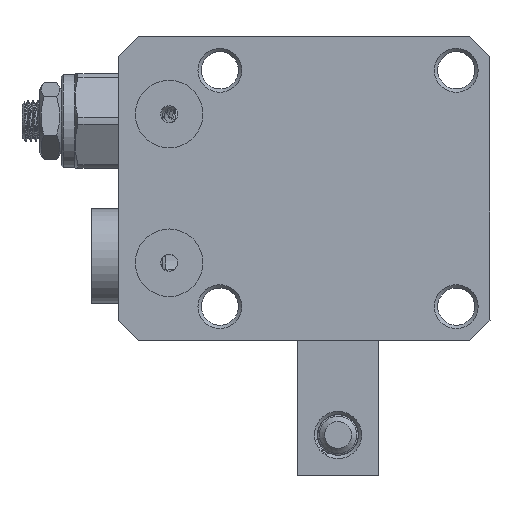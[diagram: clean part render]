
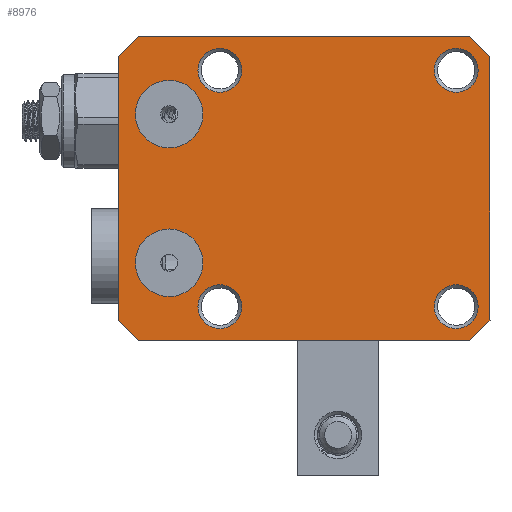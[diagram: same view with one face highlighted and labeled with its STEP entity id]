
A CAD part, front view. The second image highlights one B-rep face of the part: STEP entity #8976.
In plain terms, the highlighted planar face has unit normal (0, -1, 0).
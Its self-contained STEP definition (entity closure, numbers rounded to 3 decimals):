
#648=FACE_BOUND('',#1464,.T.);
#649=FACE_BOUND('',#1465,.T.);
#650=FACE_BOUND('',#1466,.T.);
#651=FACE_BOUND('',#1467,.T.);
#652=FACE_BOUND('',#1468,.T.);
#653=FACE_BOUND('',#1469,.T.);
#725=PLANE('',#9792);
#924=FACE_OUTER_BOUND('',#1463,.T.);
#1463=EDGE_LOOP('',(#6176,#6177,#6178,#6179,#6180,#6181,#6182,#6183));
#1464=EDGE_LOOP('',(#6184));
#1465=EDGE_LOOP('',(#6185));
#1466=EDGE_LOOP('',(#6186));
#1467=EDGE_LOOP('',(#6187));
#1468=EDGE_LOOP('',(#6188));
#1469=EDGE_LOOP('',(#6189));
#2057=LINE('',#13640,#2649);
#2078=LINE('',#13685,#2670);
#2079=LINE('',#13689,#2671);
#2080=LINE('',#13691,#2672);
#2081=LINE('',#13693,#2673);
#2082=LINE('',#13695,#2674);
#2083=LINE('',#13696,#2675);
#2084=LINE('',#13697,#2676);
#2649=VECTOR('',#10919,1000.);
#2670=VECTOR('',#10952,1000.);
#2671=VECTOR('',#10955,1000.);
#2672=VECTOR('',#10956,1000.);
#2673=VECTOR('',#10957,1000.);
#2674=VECTOR('',#10958,1000.);
#2675=VECTOR('',#10959,1000.);
#2676=VECTOR('',#10960,1000.);
#3225=CIRCLE('',#9718,5.);
#3227=CIRCLE('',#9721,5.);
#3230=CIRCLE('',#9725,3.25);
#3233=CIRCLE('',#9729,3.25);
#3236=CIRCLE('',#9733,3.25);
#3239=CIRCLE('',#9737,3.25);
#3696=VERTEX_POINT('',#13328);
#3698=VERTEX_POINT('',#13334);
#3701=VERTEX_POINT('',#13342);
#3704=VERTEX_POINT('',#13350);
#3707=VERTEX_POINT('',#13358);
#3710=VERTEX_POINT('',#13366);
#3751=VERTEX_POINT('',#13637);
#3752=VERTEX_POINT('',#13639);
#3770=VERTEX_POINT('',#13683);
#3771=VERTEX_POINT('',#13687);
#3772=VERTEX_POINT('',#13688);
#3773=VERTEX_POINT('',#13690);
#3774=VERTEX_POINT('',#13692);
#3775=VERTEX_POINT('',#13694);
#4611=EDGE_CURVE('',#3696,#3696,#3225,.T.);
#4614=EDGE_CURVE('',#3698,#3698,#3227,.T.);
#4618=EDGE_CURVE('',#3701,#3701,#3230,.T.);
#4622=EDGE_CURVE('',#3704,#3704,#3233,.T.);
#4626=EDGE_CURVE('',#3707,#3707,#3236,.T.);
#4630=EDGE_CURVE('',#3710,#3710,#3239,.T.);
#4691=EDGE_CURVE('',#3752,#3751,#2057,.T.);
#4714=EDGE_CURVE('',#3751,#3770,#2078,.T.);
#4715=EDGE_CURVE('',#3771,#3772,#2079,.T.);
#4716=EDGE_CURVE('',#3772,#3773,#2080,.T.);
#4717=EDGE_CURVE('',#3773,#3774,#2081,.T.);
#4718=EDGE_CURVE('',#3774,#3775,#2082,.T.);
#4719=EDGE_CURVE('',#3775,#3752,#2083,.T.);
#4720=EDGE_CURVE('',#3770,#3771,#2084,.T.);
#6176=ORIENTED_EDGE('',*,*,#4715,.T.);
#6177=ORIENTED_EDGE('',*,*,#4716,.T.);
#6178=ORIENTED_EDGE('',*,*,#4717,.T.);
#6179=ORIENTED_EDGE('',*,*,#4718,.T.);
#6180=ORIENTED_EDGE('',*,*,#4719,.T.);
#6181=ORIENTED_EDGE('',*,*,#4691,.T.);
#6182=ORIENTED_EDGE('',*,*,#4714,.T.);
#6183=ORIENTED_EDGE('',*,*,#4720,.T.);
#6184=ORIENTED_EDGE('',*,*,#4611,.T.);
#6185=ORIENTED_EDGE('',*,*,#4614,.T.);
#6186=ORIENTED_EDGE('',*,*,#4618,.T.);
#6187=ORIENTED_EDGE('',*,*,#4622,.T.);
#6188=ORIENTED_EDGE('',*,*,#4626,.T.);
#6189=ORIENTED_EDGE('',*,*,#4630,.T.);
#8976=ADVANCED_FACE('',(#924,#648,#649,#650,#651,#652,#653),#725,.T.);
#9718=AXIS2_PLACEMENT_3D('',#13330,#10755,#10756);
#9721=AXIS2_PLACEMENT_3D('',#13336,#10762,#10763);
#9725=AXIS2_PLACEMENT_3D('',#13344,#10771,#10772);
#9729=AXIS2_PLACEMENT_3D('',#13352,#10780,#10781);
#9733=AXIS2_PLACEMENT_3D('',#13360,#10789,#10790);
#9737=AXIS2_PLACEMENT_3D('',#13368,#10798,#10799);
#9792=AXIS2_PLACEMENT_3D('',#13686,#10953,#10954);
#10755=DIRECTION('center_axis',(0.,1.,0.));
#10756=DIRECTION('ref_axis',(0.,0.,-1.));
#10762=DIRECTION('center_axis',(0.,1.,0.));
#10763=DIRECTION('ref_axis',(0.,0.,-1.));
#10771=DIRECTION('center_axis',(0.,1.,0.));
#10772=DIRECTION('ref_axis',(0.,0.,-1.));
#10780=DIRECTION('center_axis',(0.,1.,0.));
#10781=DIRECTION('ref_axis',(0.,0.,-1.));
#10789=DIRECTION('center_axis',(0.,1.,0.));
#10790=DIRECTION('ref_axis',(0.,0.,-1.));
#10798=DIRECTION('center_axis',(0.,1.,0.));
#10799=DIRECTION('ref_axis',(0.,0.,-1.));
#10919=DIRECTION('',(1.,0.,0.));
#10952=DIRECTION('',(0.707,0.,0.707));
#10953=DIRECTION('center_axis',(0.,-1.,0.));
#10954=DIRECTION('ref_axis',(0.,0.,-1.));
#10955=DIRECTION('',(-0.707,0.,0.707));
#10956=DIRECTION('',(-1.,0.,0.));
#10957=DIRECTION('',(-0.707,0.,-0.707));
#10958=DIRECTION('',(0.,0.,-1.));
#10959=DIRECTION('',(0.707,0.,-0.707));
#10960=DIRECTION('',(0.,0.,1.));
#13328=CARTESIAN_POINT('',(438.13,64.989,16.));
#13330=CARTESIAN_POINT('Origin',(438.13,64.989,11.));
#13334=CARTESIAN_POINT('',(438.13,64.989,-6.));
#13336=CARTESIAN_POINT('Origin',(438.13,64.989,-11.));
#13342=CARTESIAN_POINT('',(480.63,64.989,-14.25));
#13344=CARTESIAN_POINT('Origin',(480.63,64.989,-17.5));
#13350=CARTESIAN_POINT('',(445.63,64.989,-14.25));
#13352=CARTESIAN_POINT('Origin',(445.63,64.989,-17.5));
#13358=CARTESIAN_POINT('',(445.63,64.989,20.75));
#13360=CARTESIAN_POINT('Origin',(445.63,64.989,17.5));
#13366=CARTESIAN_POINT('',(480.63,64.989,20.75));
#13368=CARTESIAN_POINT('Origin',(480.63,64.989,17.5));
#13637=CARTESIAN_POINT('',(482.63,64.989,-22.5));
#13639=CARTESIAN_POINT('',(433.63,64.989,-22.5));
#13640=CARTESIAN_POINT('',(433.63,64.989,-22.5));
#13683=CARTESIAN_POINT('',(485.63,64.989,-19.5));
#13685=CARTESIAN_POINT('',(482.63,64.989,-22.5));
#13686=CARTESIAN_POINT('Origin',(430.63,64.989,22.5));
#13687=CARTESIAN_POINT('',(485.63,64.989,19.5));
#13688=CARTESIAN_POINT('',(482.63,64.989,22.5));
#13689=CARTESIAN_POINT('',(485.63,64.989,19.5));
#13690=CARTESIAN_POINT('',(433.63,64.989,22.5));
#13691=CARTESIAN_POINT('',(430.63,64.989,22.5));
#13692=CARTESIAN_POINT('',(430.63,64.989,19.5));
#13693=CARTESIAN_POINT('',(433.63,64.989,22.5));
#13694=CARTESIAN_POINT('',(430.63,64.989,-19.5));
#13695=CARTESIAN_POINT('',(430.63,64.989,22.5));
#13696=CARTESIAN_POINT('',(430.63,64.989,-19.5));
#13697=CARTESIAN_POINT('',(485.63,64.989,22.5));
